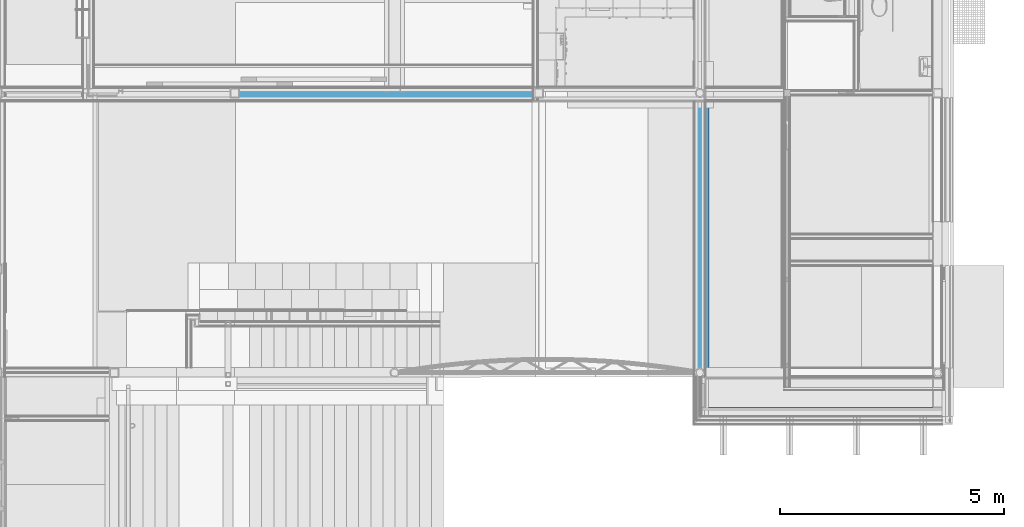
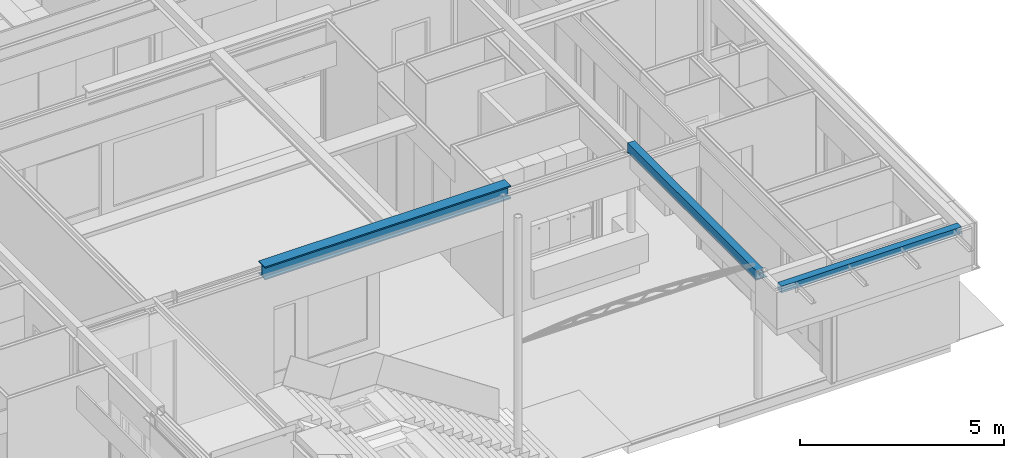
# One storey, part 10 of 165: 3 beams.
"""IFC2X3 building model written with IfcOpenShell, lengths in millimetres."""

from ifc_helpers import new_model, entity, si_unit, converted_unit, derived_unit, money_unit, direction, frame, origin_with_axes, place, context, subcontext, project, spatial, faceted_brep, material, type_object, element, save


model = new_model("IFC2X3")

# Units and contexts
model_context = context("Model", 3, precision=0.01, world=origin_with_axes(), true_north=direction((0.0, 1.0)))
body_context = subcontext(model_context, "Body", "Model", "MODEL_VIEW")
ifc_project = project(units=[si_unit("LENGTHUNIT", "METRE", prefix="MILLI"), si_unit("AREAUNIT", "SQUARE_METRE"), si_unit("VOLUMEUNIT", "CUBIC_METRE"), converted_unit("PLANEANGLEUNIT", "DEGREE", entity("IfcPlaneAngleMeasure", 0.0174532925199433), si_unit("PLANEANGLEUNIT", "RADIAN"), dimensions=[0, 0, 0, 0, 0, 0, 0]), money_unit("EUR"), converted_unit("TIMEUNIT", "Year", entity("IfcTimeMeasure", 31556926.0), si_unit("TIMEUNIT", "SECOND"), dimensions=[0, 0, 1, 0, 0, 0, 0]), si_unit("MASSUNIT", "GRAM", prefix="KILO"), si_unit("THERMODYNAMICTEMPERATUREUNIT", "DEGREE_CELSIUS"), si_unit("LUMINOUSINTENSITYUNIT", "LUMEN"), si_unit("ENERGYUNIT", "JOULE", prefix="MEGA"), derived_unit("THERMALCONDUCTANCEUNIT", [(si_unit("POWERUNIT", "WATT"), 1), (si_unit("LENGTHUNIT", "METRE"), -1), (si_unit("THERMODYNAMICTEMPERATUREUNIT", "KELVIN"), -1)]), derived_unit("SPECIFICHEATCAPACITYUNIT", [(si_unit("ENERGYUNIT", "JOULE"), 1), (si_unit("MASSUNIT", "GRAM", prefix="KILO"), -1), (si_unit("THERMODYNAMICTEMPERATUREUNIT", "KELVIN"), -1)]), derived_unit("MASSDENSITYUNIT", [(si_unit("MASSUNIT", "GRAM", prefix="KILO"), 1), (si_unit("VOLUMEUNIT", "CUBIC_METRE"), -1)])], contexts=[model_context])

# Site, building, storey
site_placement = place(None, origin_with_axes())
site = spatial("IfcSite", under=ifc_project, at=site_placement, Name="Site", CompositionType="ELEMENT")
building_placement = place(site_placement, origin_with_axes())
building = spatial("IfcBuilding", under=site, at=building_placement, Name="Naam gebouw", CompositionType="ELEMENT")
storey_placement = place(building_placement, origin_with_axes())
storey = spatial("IfcBuildingStorey", under=building, at=storey_placement, Name="Begane grond", CompositionType="ELEMENT", Elevation=0.0)

# Beams
ifc_material = material(Name="Metaal - Staal C")
beam_type_1 = type_object("IfcBeamType", Name="HEM360 308 x 395", PredefinedType="BEAM")
beam_1_placement = place(storey_placement, frame((21009.99793409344, 10810.00011055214, 3662.499999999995), z_axis=(0.0, 0.0, 1.0), x_axis=(0.0, 1.0, 0.0)))
element("IfcBeam", 1, at=beam_1_placement, inside=storey, type_object=beam_type_1, material=ifc_material, Name="h METAAL_Regenwaterafvoer-x", ObjectType="BEAM", context=body_context, shape_type="Brep", body=[
    faceted_brep([(-89.9999999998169, 10.00000000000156, -197.5000000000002), (-89.9999999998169, 190.0000000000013, -197.5000000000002), (90.00000000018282, 190.0000000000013, -197.5000000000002), (90.00000000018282, 10.00000000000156, -197.5000000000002), (-89.9999999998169, 190.0000000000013, -167.5), (-89.9999999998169, 10.00000000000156, -167.5), (90.00000000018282, 190.0000000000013, -167.5), (90.00000000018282, 10.00000000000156, -167.5), (100.0000000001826, 200.0000000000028, -167.5), (100.0000000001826, 0.0, -167.5), (-99.99999999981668, 0.0, -167.5), (-99.99999999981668, 200.0000000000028, -167.5), (100.0000000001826, 200.0000000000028, -197.5000000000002), (100.0000000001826, 0.0, -197.5000000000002), (-153.9999999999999, 0.0, -197.5000000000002), (-99.99999999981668, 0.0, -197.5000000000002), (153.9999999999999, 0.0, -197.5000000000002), (153.9999999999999, 0.0, -157.5000000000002), (10.5000000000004, 0.0, -157.5000000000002), (10.5000000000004, 0.0, 157.5000000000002), (153.9999999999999, 0.0, 157.5000000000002), (153.9999999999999, 0.0, 197.5000000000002), (-153.9999999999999, 0.0, 197.5000000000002), (-153.9999999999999, 0.0, 157.5000000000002), (-10.5000000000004, 0.0, 157.5000000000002), (-10.5000000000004, 0.0, -157.5000000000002), (-153.9999999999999, 0.0, -157.5000000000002), (-99.99999999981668, 200.0000000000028, -197.5000000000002), (-153.9999999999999, 6969.996105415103, -197.5000000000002), (-99.99999999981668, 6969.996105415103, -197.5000000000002), (-99.99999999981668, 6769.996105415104, -197.5000000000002), (100.0000000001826, 6769.996105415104, -197.5000000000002), (100.0000000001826, 6969.996105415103, -197.5000000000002), (153.9999999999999, 6969.996105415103, -197.5000000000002), (153.9999999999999, 6969.996105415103, -157.5000000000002), (10.5000000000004, 6969.996105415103, -157.5000000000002), (10.5000000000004, 6969.996105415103, 157.5000000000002), (153.9999999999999, 6969.996105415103, 157.5000000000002), (153.9999999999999, 6969.996105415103, 197.5000000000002), (-153.9999999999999, 6969.996105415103, 197.5000000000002), (-153.9999999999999, 6969.996105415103, 157.5000000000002), (-10.5000000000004, 6969.996105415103, 157.5000000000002), (-10.5000000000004, 6969.996105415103, -157.5000000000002), (-153.9999999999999, 6969.996105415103, -157.5000000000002), (100.0000000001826, 6969.996105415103, -167.5), (-99.99999999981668, 6969.996105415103, -167.5), (-99.99999999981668, 6769.996105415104, -167.5), (100.0000000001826, 6769.996105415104, -167.5), (90.00000000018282, 6959.996105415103, -167.5), (-89.9999999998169, 6959.996105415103, -167.5), (-89.9999999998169, 6779.996105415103, -167.5), (90.00000000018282, 6779.996105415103, -167.5), (90.00000000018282, 6959.996105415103, -197.5000000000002), (-89.9999999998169, 6959.996105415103, -197.5000000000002), (-89.9999999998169, 6779.996105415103, -197.5000000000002), (90.00000000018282, 6779.996105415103, -197.5000000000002)], [[[0, 1, 2, 3]], [[4, 1, 0, 5]], [[6, 2, 1, 4]], [[7, 3, 2, 6]], [[5, 0, 3, 7]], [[8, 9, 10, 11], [6, 4, 5, 7]], [[12, 13, 9, 8]], [[14, 15, 10, 9, 13, 16, 17, 18, 19, 20, 21, 22, 23, 24, 25, 26]], [[11, 10, 15, 27]], [[11, 27, 12, 8]], [[12, 27, 15, 14, 28, 29, 30, 31, 32, 33, 16, 13]], [[17, 16, 33, 34]], [[18, 17, 34, 35]], [[19, 18, 35, 36]], [[20, 19, 36, 37]], [[21, 20, 37, 38]], [[22, 21, 38, 39]], [[23, 22, 39, 40]], [[24, 23, 40, 41]], [[25, 24, 41, 42]], [[26, 25, 42, 43]], [[14, 26, 43, 28]], [[44, 45, 29, 28, 43, 42, 41, 40, 39, 38, 37, 36, 35, 34, 33, 32]], [[46, 30, 29, 45]], [[47, 31, 30, 46]], [[44, 32, 31, 47]], [[46, 45, 44, 47], [48, 49, 50, 51]], [[48, 52, 53, 49]], [[49, 53, 54, 50]], [[50, 54, 55, 51]], [[51, 55, 52, 48]], [[54, 53, 52, 55]]]),
])
beam_type_2 = type_object("IfcBeamType", Name="28 THQ enkele flens 02 320 x 280", PredefinedType="BEAM")
beam_2_placement = place(storey_placement, frame((24499.99903999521, 10810.00011055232, 3860.0), z_axis=(0.0, 0.0, 1.0), x_axis=(-1.0, 0.0, 0.0)))
element("IfcBeam", 2, at=beam_2_placement, inside=storey, type_object=beam_type_2, material=ifc_material, Name="h METAAL_Regenwaterafvoer-x", ObjectType="BEAM", context=body_context, shape_type="Brep", body=[
    faceted_brep([(-55.23750290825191, 63.74747659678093, -265.0000000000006), (-70.95973549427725, 45.6030529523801, -265.0000000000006), (-80.93323232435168, 23.7641411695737, -265.0000000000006), (-84.34999999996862, 0.0, -265.0000000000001), (84.35000000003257, 0.0, -265.0000000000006), (80.93323232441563, 23.7641411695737, -265.0000000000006), (70.9597354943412, 45.6030529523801, -265.0000000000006), (55.23750290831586, 63.74747659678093, -265.0000000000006), (35.0402563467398, 76.72745880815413, -265.0000000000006), (12.00425660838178, 83.49143862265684, -265.0000000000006), (-12.00425660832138, 83.49143862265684, -265.0000000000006), (-35.04025634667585, 76.72745880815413, -265.0000000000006), (-70.95973549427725, 45.6030529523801, -279.9999999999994), (-55.23750290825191, 63.74747659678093, -279.9999999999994), (-80.93323232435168, 23.7641411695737, -279.9999999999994), (-84.34999999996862, 0.0, -280.0000000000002), (84.35000000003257, 0.0, -280.0000000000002), (80.93323232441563, 23.7641411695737, -279.9999999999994), (70.9597354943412, 45.6030529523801, -279.9999999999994), (55.23750290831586, 63.74747659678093, -279.9999999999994), (35.0402563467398, 76.72745880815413, -279.9999999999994), (12.00425660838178, 83.49143862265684, -279.9999999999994), (-12.00425660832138, 83.49143862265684, -279.9999999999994), (-35.04025634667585, 76.72745880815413, -279.9999999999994)], [[[0, 1, 2, 3, 4, 5, 6, 7, 8, 9, 10, 11]], [[12, 1, 0, 13]], [[14, 2, 1, 12]], [[15, 3, 2, 14]], [[15, 16, 4, 3]], [[17, 5, 4, 16]], [[18, 6, 5, 17]], [[19, 7, 6, 18]], [[20, 8, 7, 19]], [[21, 9, 8, 20]], [[22, 10, 9, 21]], [[23, 11, 10, 22]], [[13, 0, 11, 23]], [[18, 17, 16, 15, 14, 12, 13, 23, 22, 21, 20, 19]]]),
    faceted_brep([(-55.23723419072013, 6166.252633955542, -279.9999999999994), (-70.95946677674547, 6184.397057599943, -279.9999999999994), (-80.9329636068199, 6206.235969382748, -279.9999999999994), (-84.34973128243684, 6230.000110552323, -279.9999999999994), (-80.9329636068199, 6253.764251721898, -279.9999999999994), (-70.95946677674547, 6275.603163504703, -279.9999999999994), (-55.23723419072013, 6293.747587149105, -279.9999999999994), (-35.03998762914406, 6306.727569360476, -279.9999999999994), (-12.0039878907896, 6313.49154917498, -279.9999999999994), (12.00452532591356, 6313.49154917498, -279.9999999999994), (35.04052506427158, 6306.727569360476, -279.9999999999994), (55.23777162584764, 6293.747587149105, -279.9999999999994), (70.96000421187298, 6275.603163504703, -279.9999999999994), (80.93350104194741, 6253.764251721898, -279.9999999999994), (84.35026871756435, 6230.000110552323, -279.9999999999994), (80.93350104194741, 6206.235969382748, -279.9999999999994), (70.96000421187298, 6184.397057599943, -279.9999999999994), (55.23777162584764, 6166.252633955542, -279.9999999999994), (35.04052506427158, 6153.27265174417, -279.9999999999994), (12.00452532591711, 6146.508671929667, -279.9999999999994), (-12.0039878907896, 6146.508671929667, -279.9999999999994), (-35.03998762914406, 6153.27265174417, -279.9999999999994), (-55.23723419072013, 6166.252633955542, -265.0000000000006), (-70.95946677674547, 6184.397057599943, -265.0000000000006), (-80.9329636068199, 6206.235969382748, -265.0000000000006), (-84.34973128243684, 6230.000110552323, -265.0000000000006), (-80.9329636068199, 6253.764251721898, -265.0000000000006), (-70.95946677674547, 6275.603163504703, -265.0000000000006), (-55.23723419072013, 6293.747587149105, -265.0000000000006), (-35.03998762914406, 6306.727569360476, -265.0000000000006), (-12.0039878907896, 6313.49154917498, -265.0000000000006), (12.00452532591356, 6313.49154917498, -265.0000000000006), (35.04052506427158, 6306.727569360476, -265.0000000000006), (55.23777162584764, 6293.747587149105, -265.0000000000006), (70.96000421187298, 6275.603163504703, -265.0000000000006), (80.93350104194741, 6253.764251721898, -265.0000000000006), (84.35026871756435, 6230.000110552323, -265.0000000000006), (80.93350104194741, 6206.235969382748, -265.0000000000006), (70.96000421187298, 6184.397057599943, -265.0000000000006), (55.23777162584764, 6166.252633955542, -265.0000000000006), (35.04052506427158, 6153.27265174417, -265.0000000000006), (12.00452532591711, 6146.508671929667, -265.0000000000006), (-12.0039878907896, 6146.508671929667, -265.0000000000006), (-35.03998762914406, 6153.27265174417, -265.0000000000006)], [[[0, 1, 2, 3, 4, 5, 6, 7, 8, 9, 10, 11, 12, 13, 14, 15, 16, 17, 18, 19, 20, 21]], [[0, 22, 23, 1]], [[1, 23, 24, 2]], [[2, 24, 25, 3]], [[3, 25, 26, 4]], [[4, 26, 27, 5]], [[5, 27, 28, 6]], [[6, 28, 29, 7]], [[7, 29, 30, 8]], [[8, 30, 31, 9]], [[9, 31, 32, 10]], [[10, 32, 33, 11]], [[11, 33, 34, 12]], [[12, 34, 35, 13]], [[13, 35, 36, 14]], [[14, 36, 37, 15]], [[15, 37, 38, 16]], [[16, 38, 39, 17]], [[17, 39, 40, 18]], [[18, 40, 41, 19]], [[19, 41, 42, 20]], [[20, 42, 43, 21]], [[21, 43, 22, 0]], [[28, 27, 26, 25, 24, 23, 22, 43, 42, 41, 40, 39, 38, 37, 36, 35, 34, 33, 32, 31, 30, 29]]]),
    faceted_brep([(-95.00000000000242, 6217.134946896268, -260.0000000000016), (-95.00000000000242, 6242.865274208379, -260.0000000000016), (-95.00000000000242, 6242.86527420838, -265.0000000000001), (-95.00000000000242, 6330.000103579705, -265.0000000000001), (-95.00000000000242, 6330.000103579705, -29.9999999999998), (-94.99999999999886, 0.0, -29.9999999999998), (-94.99999999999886, 0.0, -260.0000000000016), (-95.00000000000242, 12.86703262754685, -260.0000000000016), (-94.99999999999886, 12.86703262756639, -265.0000000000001), (-95.00000000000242, 6217.134946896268, -265.0000000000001), (-96.84973128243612, 6230.000110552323, -260.0000000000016), (-96.84973128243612, 6230.000110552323, -279.9999999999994), (-92.92662577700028, 6257.285908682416, -279.9999999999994), (-92.92662577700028, 6257.285908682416, -265.0000000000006), (81.47567337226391, 6282.361173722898, -265.0000000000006), (92.9271632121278, 6257.285908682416, -265.0000000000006), (94.99999999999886, 6242.869012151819, -265.0000000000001), (94.99999999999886, 6330.000103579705, -265.0000000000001), (-81.4751359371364, 6282.361173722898, -265.0000000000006), (-63.42299336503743, 6303.194456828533, -265.0000000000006), (-40.2326752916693, 6318.097969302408, -265.0000000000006), (-13.78292336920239, 6325.864317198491, -265.0000000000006), (13.78346080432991, 6325.864317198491, -265.0000000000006), (40.23321272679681, 6318.097969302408, -265.0000000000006), (63.42353080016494, 6303.194456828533, -265.0000000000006), (-204.0000044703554, 6330.000103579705, -265.0000000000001), (-100.9999999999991, 6330.000103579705, -265.0000000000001), (-100.9999999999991, 6330.000103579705, 0.0), (100.9999999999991, 6330.000103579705, 0.0), (100.9999999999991, 6330.000103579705, -265.0000000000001), (115.9999999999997, 6330.000103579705, -265.0000000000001), (115.9999999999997, 6330.000103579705, -280.0000000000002), (-204.0000044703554, 6330.000103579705, -279.9999999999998), (94.99999999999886, 6330.000103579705, -30.00000000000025), (94.99999999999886, 0.0, -30.00000000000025), (94.99999999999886, 0.0, -260.0000000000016), (96.85000000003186, 0.0, -260.0000000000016), (96.85000000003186, 0.0, -280.0000000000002), (115.9999999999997, 0.0, -280.0000000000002), (115.9999999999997, 0.0, -265.0000000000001), (100.9999999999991, 0.0, -265.0000000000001), (100.9999999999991, 0.0, 0.0), (-100.9999999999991, 0.0, 0.0), (-100.9999999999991, 0.0, -265.0000000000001), (-204.0000044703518, 0.0, -265.0000000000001), (-204.0000044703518, 0.0, -279.9999999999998), (-96.8499999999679, 0.0, -280.0000000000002), (-96.8499999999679, 0.0, -260.0000000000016), (-92.92689449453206, 27.28579813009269, -279.9999999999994), (-92.92689449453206, 27.28579813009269, -265.0000000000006), (-81.4751359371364, 6177.639047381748, -265.0000000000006), (-92.92662577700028, 6202.71431242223, -265.0000000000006), (-81.47540465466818, 52.36106317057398, -265.0000000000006), (-63.42326208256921, 73.19434627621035, -265.0000000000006), (-40.23294400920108, 88.09785875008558, -265.0000000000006), (-13.78319208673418, 95.86420664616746, -265.0000000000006), (13.78319208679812, 95.86420664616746, -265.0000000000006), (40.23294400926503, 88.09785875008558, -265.0000000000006), (63.42326208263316, 73.19434627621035, -265.0000000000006), (81.47540465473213, 52.36106317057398, -265.0000000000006), (92.92689449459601, 27.28579813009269, -265.0000000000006), (94.99999999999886, 12.86703262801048, -265.0000000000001), (94.99999999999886, 6217.131208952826, -265.0000000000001), (92.9271632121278, 6202.71431242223, -265.0000000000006), (81.47567337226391, 6177.639047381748, -265.0000000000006), (63.42353080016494, 6156.805764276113, -265.0000000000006), (40.23321272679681, 6141.902251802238, -265.0000000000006), (13.78346080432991, 6134.135903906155, -265.0000000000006), (-13.78292336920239, 6134.135903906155, -265.0000000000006), (-40.2326752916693, 6141.902251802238, -265.0000000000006), (-63.42299336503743, 6156.805764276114, -265.0000000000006), (-92.92662577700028, 6202.71431242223, -279.9999999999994), (-81.47540465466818, 52.36106317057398, -279.9999999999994), (92.92689449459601, 27.28579813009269, -279.9999999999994), (81.47540465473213, 52.36106317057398, -279.9999999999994), (63.42326208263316, 73.19434627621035, -279.9999999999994), (40.23294400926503, 88.09785875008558, -279.9999999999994), (13.78319208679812, 95.86420664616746, -279.9999999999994), (-13.78319208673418, 95.86420664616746, -279.9999999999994), (-40.23294400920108, 88.09785875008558, -279.9999999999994), (-63.42326208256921, 73.19434627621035, -279.9999999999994), (-63.42299336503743, 6303.194456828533, -279.9999999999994), (-81.4751359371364, 6282.361173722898, -279.9999999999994), (-81.4751359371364, 6177.639047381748, -279.9999999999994), (-63.42299336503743, 6156.805764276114, -279.9999999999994), (-40.2326752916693, 6141.902251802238, -279.9999999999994), (-13.78292336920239, 6134.135903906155, -279.9999999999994), (13.78346080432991, 6134.135903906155, -279.9999999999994), (40.23321272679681, 6141.902251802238, -279.9999999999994), (63.42353080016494, 6156.805764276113, -279.9999999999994), (81.47567337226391, 6177.639047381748, -279.9999999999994), (92.9271632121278, 6202.71431242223, -279.9999999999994), (96.85026871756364, 6230.000110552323, -279.9999999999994), (92.9271632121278, 6257.285908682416, -279.9999999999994), (81.47567337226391, 6282.361173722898, -279.9999999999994), (63.42353080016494, 6303.194456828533, -279.9999999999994), (40.23321272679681, 6318.097969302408, -279.9999999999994), (13.78346080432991, 6325.864317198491, -279.9999999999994), (-13.78292336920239, 6325.864317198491, -279.9999999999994), (-40.2326752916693, 6318.097969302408, -279.9999999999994), (94.99999999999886, 6242.86901215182, -260.0000000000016), (96.85026871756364, 6230.000110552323, -260.0000000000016), (94.99999999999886, 6217.131208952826, -260.0000000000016), (94.99999999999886, 12.86703262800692, -260.0000000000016)], [[[0, 1, 2, 3, 4, 5, 6, 7, 8, 9]], [[10, 1, 0]], [[10, 11, 12, 13, 2, 1]], [[14, 15, 16, 17, 3, 2, 13, 18, 19, 20, 21, 22, 23, 24]], [[25, 26, 27, 28, 29, 30, 31, 32], [4, 3, 17, 33]], [[34, 5, 4, 33]], [[35, 36, 37, 38, 39, 40, 41, 42, 43, 44, 45, 46, 47, 6, 5, 34]], [[7, 6, 47]], [[47, 46, 48, 49, 8, 7]], [[50, 51, 9, 8, 49, 52, 53, 54, 55, 56, 57, 58, 59, 60, 61, 62, 63, 64, 65, 66, 67, 68, 69, 70]], [[51, 71, 11, 10, 0, 9]], [[72, 48, 46, 45, 32, 31, 38, 37, 73, 74, 75, 76, 77, 78, 79, 80], [81, 82, 12, 11, 71, 83, 84, 85, 86, 87, 88, 89, 90, 91, 92, 93, 94, 95, 96, 97, 98, 99]], [[82, 18, 13, 12]], [[93, 15, 14, 94]], [[100, 16, 15, 93, 92, 101]], [[100, 102, 62, 61, 103, 35, 34, 33, 17, 16]], [[81, 19, 18, 82]], [[99, 20, 19, 81]], [[98, 21, 20, 99]], [[97, 22, 21, 98]], [[96, 23, 22, 97]], [[95, 24, 23, 96]], [[94, 14, 24, 95]], [[44, 43, 26, 25]], [[43, 42, 27, 26]], [[42, 41, 28, 27]], [[41, 40, 29, 28]], [[40, 39, 30, 29]], [[39, 38, 31, 30]], [[45, 44, 25, 32]], [[103, 36, 35]], [[103, 61, 60, 73, 37, 36]], [[72, 52, 49, 48]], [[71, 51, 50, 83]], [[80, 53, 52, 72]], [[79, 54, 53, 80]], [[78, 55, 54, 79]], [[77, 56, 55, 78]], [[76, 57, 56, 77]], [[75, 58, 57, 76]], [[74, 59, 58, 75]], [[73, 60, 59, 74]], [[91, 63, 62, 102, 101, 92]], [[90, 64, 63, 91]], [[89, 65, 64, 90]], [[88, 66, 65, 89]], [[87, 67, 66, 88]], [[86, 68, 67, 87]], [[85, 69, 68, 86]], [[84, 70, 69, 85]], [[83, 50, 70, 84]], [[101, 102, 100]]]),
])
beam_type_3 = type_object("IfcBeamType", Name="200X200X10 200 x 200", PredefinedType="BEAM")
beam_3_placement = place(storey_placement, frame((24600.99903999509, 3699.999999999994, 3759.999999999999), z_axis=(0.0, 0.0, 1.0), x_axis=(0.0, -1.0, 0.0)))
element("IfcBeam", 3, at=beam_3_placement, inside=storey, type_object=beam_type_3, material=ifc_material, Name="h METAAL_Regenwaterafvoer-x", ObjectType="BEAM", context=body_context, shape_type="Brep", body=[
    faceted_brep([(-100.0000000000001, 0.0, -100.0000000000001), (-100.0000000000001, 5098.000959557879, -100.0000000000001), (99.99999999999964, 5098.000959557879, -100.0000000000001), (100.0000000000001, 0.0, -100.0000000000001), (-100.0000000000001, 0.0, 100.0000000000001), (-100.0000000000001, 5098.000959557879, 100.0000000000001), (99.99999999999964, 5098.000959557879, 100.0000000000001), (-90.0000000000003, 5098.000959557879, 89.99999999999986), (-90.0000000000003, 5098.000959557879, -89.99999999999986), (89.99999999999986, 5098.000959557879, -89.99999999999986), (89.99999999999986, 5098.000959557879, 89.99999999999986), (100.0000000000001, 0.0, 100.0000000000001), (89.99999999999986, 0.0, -89.99999999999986), (-89.99999999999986, 0.0, -89.99999999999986), (-89.99999999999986, 0.0, 89.99999999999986), (89.99999999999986, 0.0, 89.99999999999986)], [[[0, 1, 2, 3]], [[4, 5, 1, 0]], [[2, 1, 5, 6], [7, 8, 9, 10]], [[3, 2, 6, 11]], [[4, 0, 3, 11], [12, 13, 14, 15]], [[11, 6, 5, 4]], [[13, 8, 7, 14]], [[12, 9, 8, 13]], [[15, 10, 9, 12]], [[14, 7, 10, 15]]]),
])

save(model, "model.ifc")
